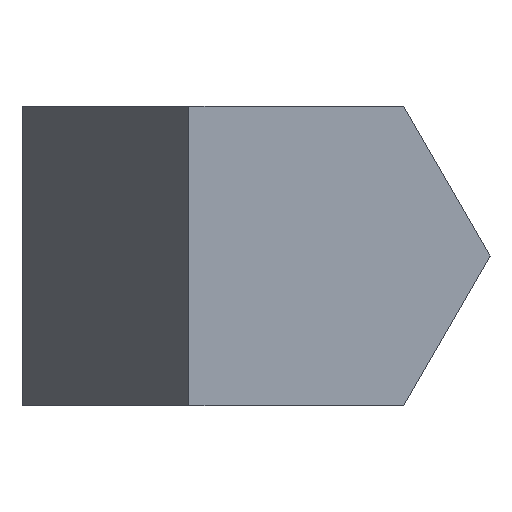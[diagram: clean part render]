
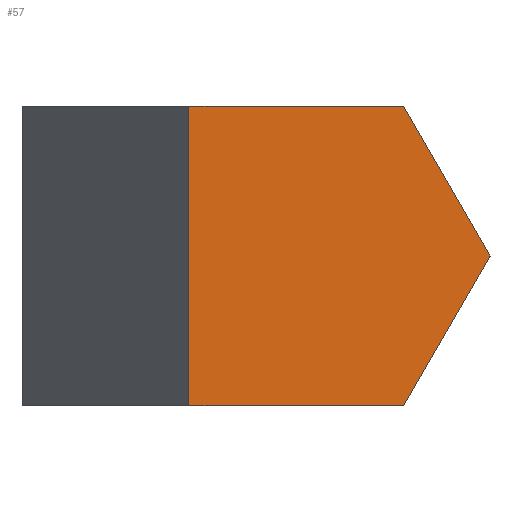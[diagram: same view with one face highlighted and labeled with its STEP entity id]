
A CAD part, left-side view. The second image highlights one B-rep face of the part: STEP entity #57.
In plain terms, the highlighted planar face has unit normal (-0.63, -0.777, 0).
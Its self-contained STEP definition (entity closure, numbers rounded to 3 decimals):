
#21 = EDGE_CURVE('',#22,#24,#26,.T.);
#22 = VERTEX_POINT('',#23);
#23 = CARTESIAN_POINT('',(8.794,2.598,4.5));
#24 = VERTEX_POINT('',#25);
#25 = CARTESIAN_POINT('',(12.,0.,0.));
#26 = LINE('',#27,#28);
#27 = CARTESIAN_POINT('',(6.895,4.138,7.167)
  );
#28 = VECTOR('',#29,1.);
#29 = DIRECTION('',(0.525,-0.426,-0.737));
#57 = ADVANCED_FACE('',(#58),#91,.F.);
#58 = FACE_BOUND('',#59,.F.);
#59 = EDGE_LOOP('',(#60,#70,#78,#84,#85));
#60 = ORIENTED_EDGE('',*,*,#61,.F.);
#61 = EDGE_CURVE('',#62,#64,#66,.T.);
#62 = VERTEX_POINT('',#63);
#63 = CARTESIAN_POINT('',(0.823,9.058,-4.5));
#64 = VERTEX_POINT('',#65);
#65 = CARTESIAN_POINT('',(8.794,2.598,-4.5));
#66 = LINE('',#67,#68);
#67 = CARTESIAN_POINT('',(0.823,9.058,-4.5));
#68 = VECTOR('',#69,1.);
#69 = DIRECTION('',(0.777,-0.63,0.));
#70 = ORIENTED_EDGE('',*,*,#71,.T.);
#71 = EDGE_CURVE('',#62,#72,#74,.T.);
#72 = VERTEX_POINT('',#73);
#73 = CARTESIAN_POINT('',(0.823,9.058,4.5));
#74 = LINE('',#75,#76);
#75 = CARTESIAN_POINT('',(0.823,9.058,-4.5));
#76 = VECTOR('',#77,1.);
#77 = DIRECTION('',(0.,0.,1.));
#78 = ORIENTED_EDGE('',*,*,#79,.T.);
#79 = EDGE_CURVE('',#72,#22,#80,.T.);
#80 = LINE('',#81,#82);
#81 = CARTESIAN_POINT('',(0.823,9.058,4.5));
#82 = VECTOR('',#83,1.);
#83 = DIRECTION('',(0.777,-0.63,0.));
#84 = ORIENTED_EDGE('',*,*,#21,.T.);
#85 = ORIENTED_EDGE('',*,*,#86,.T.);
#86 = EDGE_CURVE('',#24,#64,#87,.T.);
#87 = LINE('',#88,#89);
#88 = CARTESIAN_POINT('',(6.895,4.138,-7.167)
  );
#89 = VECTOR('',#90,1.);
#90 = DIRECTION('',(-0.525,0.426,-0.737));
#91 = PLANE('',#92);
#92 = AXIS2_PLACEMENT_3D('',#93,#94,#95);
#93 = CARTESIAN_POINT('',(0.823,9.058,-4.5));
#94 = DIRECTION('',(0.63,0.777,0.));
#95 = DIRECTION('',(0.777,-0.63,0.));
